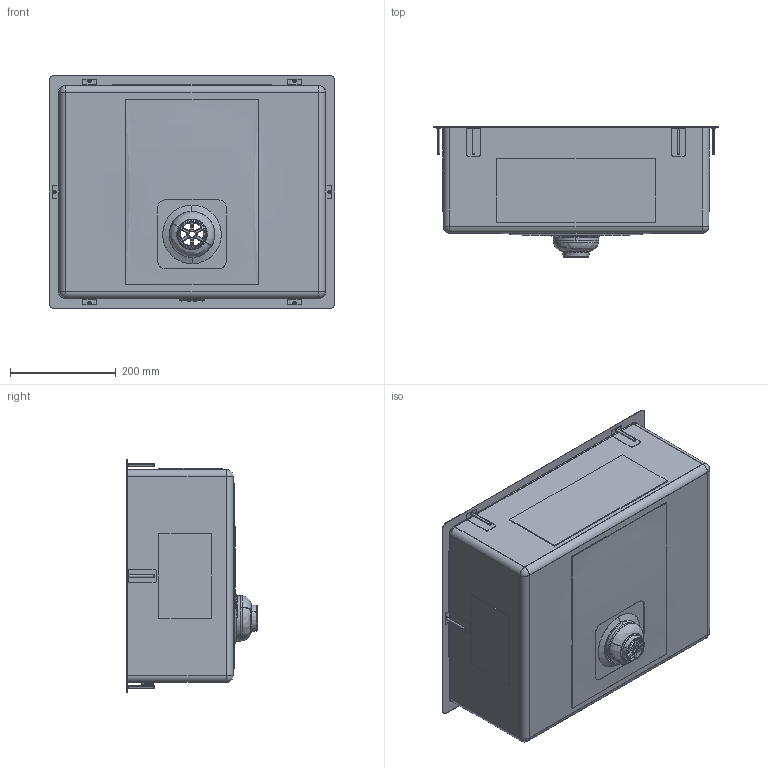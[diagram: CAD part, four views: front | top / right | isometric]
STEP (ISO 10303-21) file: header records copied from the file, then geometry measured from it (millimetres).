
FILE_DESCRIPTION((''),'2;1');
FILE_NAME('1149926_ASM','2025-01-13T14:53:13',('rafaelz'),('Audax d.o.o.'),'CREO PARAMETRIC BY PTC INC, 2020184','CREO PARAMETRIC BY PTC INC, 2020184','');
FILE_SCHEMA(('AP242_MANAGED_MODEL_BASED_3D_ENGINEERING_MIM_LF { 1 0 10303 442 1 1 4 }'));
Length unit declared in the file: millimetre
Products named in the file (13): _TAPP_BA50-_FORO_DEFORMATO_-_DE; _130_AA_-_RACCORDO1_-6501; _210_AB_-_160_X100_-_ESTRU-7132; _130_AA_-_RACCORDO1_-20577; _210_AC_-_300_X_120_-_ESTRUSION; _130_AA_-_RACCORDO1_-20788; _210_AB_-_160_X100_-_ESTR-21203; _130_AA_-_RACCORDO1_-22495; DEFORMA1; _130_AA_-_RACCORDO1_-34743; _130_AA_-_RACCORDO1_-35596; BA5021I_-_ALVEUS_-_RENDER_TUTTO_ASM; 1149926_ASM
Assembly tree (12 placements, depth 3):
  1149926_ASM
    BA5021I_-_ALVEUS_-_RENDER_TUTTO_ASM
      _TAPP_BA50-_FORO_DEFORMATO_-_DE
      _130_AA_-_RACCORDO1_-6501
      _210_AB_-_160_X100_-_ESTRU-7132
      _130_AA_-_RACCORDO1_-20577
      _210_AC_-_300_X_120_-_ESTRUSION
      _130_AA_-_RACCORDO1_-20788
      _210_AB_-_160_X100_-_ESTR-21203
      _130_AA_-_RACCORDO1_-22495
      DEFORMA1
      _130_AA_-_RACCORDO1_-34743
      _130_AA_-_RACCORDO1_-35596
Bounding box: 540 x 246.86 x 440 mm (x, y, z)
Volume: 864939.5 mm3; surface area: 1489292.6 mm2
Topology: 11 solids, 11 shells, 526 faces, 1382 edges, 913 vertices
Faces by surface type: cylinder 163, plane 152, bspline 139, torus 32, cone 16, sphere 12, extrusion 12
Entity records: 44607 total; most frequent: CARTESIAN_POINT 25382, ORIENTED_EDGE 2646, DIRECTION 2482, EDGE_CURVE 1323, AXIS2_PLACEMENT_3D 947, PROPERTY_DEFINITION 936, REPRESENTATION 925, PROPERTY_DEFINITION_REPRESENTATION 925
